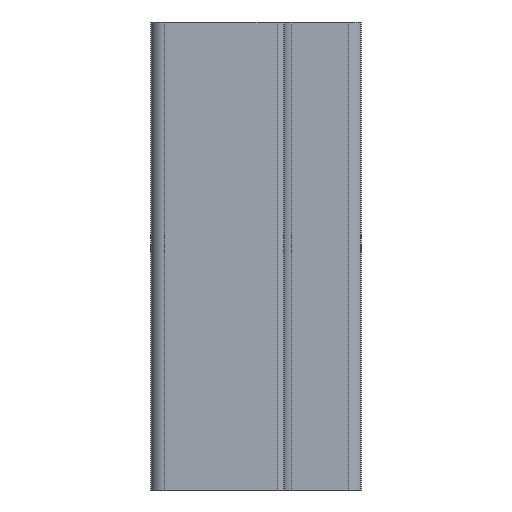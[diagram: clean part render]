
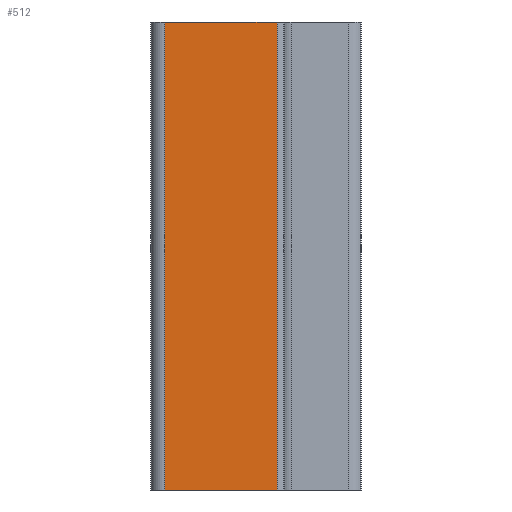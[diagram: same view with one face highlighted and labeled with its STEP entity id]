
A CAD part, front view. The second image highlights one B-rep face of the part: STEP entity #512.
In plain terms, the highlighted planar face has unit normal (0, -1, 0).
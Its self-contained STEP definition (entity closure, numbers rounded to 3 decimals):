
#5 = CARTESIAN_POINT ( 'NONE',  ( -14.5, -17.5, 0. ) ) ;
#88 = LINE ( 'NONE', #1157, #1130 ) ;
#166 = VECTOR ( 'NONE', #651, 1000. ) ;
#201 = CARTESIAN_POINT ( 'NONE',  ( -9.5, -17.5, 0. ) ) ;
#203 = ORIENTED_EDGE ( 'NONE', *, *, #1868, .T. ) ;
#222 = DIRECTION ( 'NONE',  ( 1., 0., 0. ) ) ;
#287 = VECTOR ( 'NONE', #1148, 1000. ) ;
#328 = FACE_OUTER_BOUND ( 'NONE', #2227, .T. ) ;
#331 = EDGE_CURVE ( 'NONE', #1318, #1993, #1137, .T. ) ;
#512 = ADVANCED_FACE ( 'NONE', ( #328 ), #1947, .F. ) ;
#651 = DIRECTION ( 'NONE',  ( 0., 0., -1. ) ) ;
#720 = DIRECTION ( 'NONE',  ( -1., 0., 0. ) ) ;
#771 = CARTESIAN_POINT ( 'NONE',  ( -9.5, -17.5, 100. ) ) ;
#778 = AXIS2_PLACEMENT_3D ( 'NONE', #1952, #1261, #222 ) ;
#806 = DIRECTION ( 'NONE',  ( 0., 0., -1. ) ) ;
#970 = CARTESIAN_POINT ( 'NONE',  ( 9.5, -17.5, 100. ) ) ;
#1005 = ORIENTED_EDGE ( 'NONE', *, *, #1321, .T. ) ;
#1025 = EDGE_CURVE ( 'NONE', #1993, #2158, #2106, .T. ) ;
#1130 = VECTOR ( 'NONE', #806, 1000. ) ;
#1137 = LINE ( 'NONE', #2041, #166 ) ;
#1148 = DIRECTION ( 'NONE',  ( -1., 0., 0. ) ) ;
#1151 = LINE ( 'NONE', #771, #287 ) ;
#1157 = CARTESIAN_POINT ( 'NONE',  ( -14.5, -17.5, 100. ) ) ;
#1214 = ORIENTED_EDGE ( 'NONE', *, *, #331, .F. ) ;
#1261 = DIRECTION ( 'NONE',  ( 0., 1., 0. ) ) ;
#1318 = VERTEX_POINT ( 'NONE', #970 ) ;
#1321 = EDGE_CURVE ( 'NONE', #1885, #2158, #88, .T. ) ;
#1496 = VECTOR ( 'NONE', #720, 1000. ) ;
#1516 = CARTESIAN_POINT ( 'NONE',  ( -14.5, -17.5, 100. ) ) ;
#1868 = EDGE_CURVE ( 'NONE', #1318, #1885, #1151, .T. ) ;
#1877 = CARTESIAN_POINT ( 'NONE',  ( 9.5, -17.5, 0. ) ) ;
#1885 = VERTEX_POINT ( 'NONE', #1516 ) ;
#1947 = PLANE ( 'NONE',  #778 ) ;
#1952 = CARTESIAN_POINT ( 'NONE',  ( -9.5, -17.5, 100. ) ) ;
#1993 = VERTEX_POINT ( 'NONE', #1877 ) ;
#2041 = CARTESIAN_POINT ( 'NONE',  ( 9.5, -17.5, 100. ) ) ;
#2047 = ORIENTED_EDGE ( 'NONE', *, *, #1025, .F. ) ;
#2106 = LINE ( 'NONE', #201, #1496 ) ;
#2158 = VERTEX_POINT ( 'NONE', #5 ) ;
#2227 = EDGE_LOOP ( 'NONE', ( #2047, #1214, #203, #1005 ) ) ;
